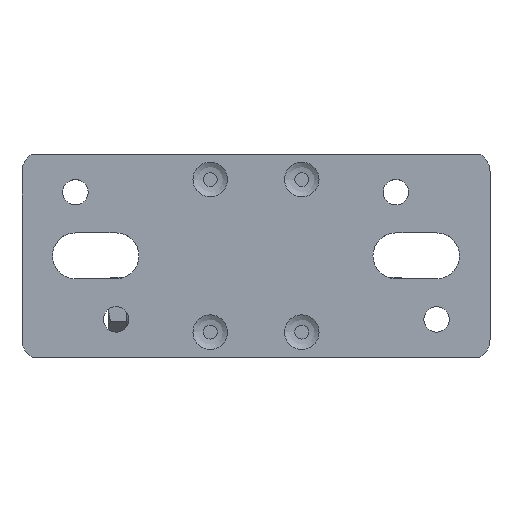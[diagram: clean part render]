
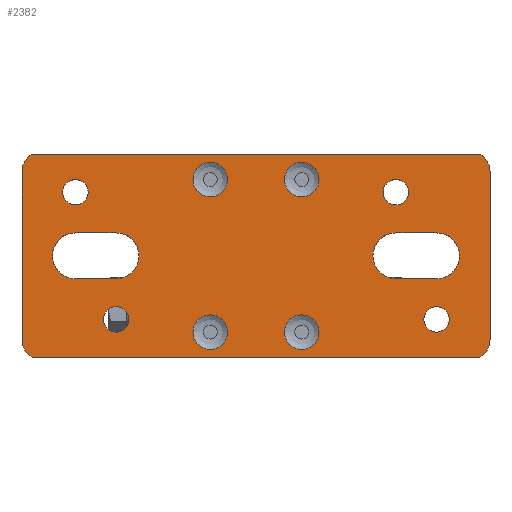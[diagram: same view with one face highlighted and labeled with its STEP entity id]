
A CAD part, top view. The second image highlights one B-rep face of the part: STEP entity #2382.
In plain terms, the highlighted planar face has unit normal (0, 0, 1).
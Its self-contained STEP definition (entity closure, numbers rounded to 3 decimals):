
#53=FACE_BOUND('',#422,.T.);
#54=FACE_BOUND('',#423,.T.);
#55=FACE_BOUND('',#424,.T.);
#56=FACE_BOUND('',#425,.T.);
#57=FACE_BOUND('',#426,.T.);
#58=FACE_BOUND('',#427,.T.);
#59=FACE_BOUND('',#428,.T.);
#60=FACE_BOUND('',#429,.T.);
#61=FACE_BOUND('',#430,.T.);
#62=FACE_BOUND('',#431,.T.);
#252=FACE_OUTER_BOUND('',#421,.T.);
#421=EDGE_LOOP('',(#1797,#1798,#1799,#1800,#1801,#1802,#1803,#1804));
#422=EDGE_LOOP('',(#1805,#1806));
#423=EDGE_LOOP('',(#1807,#1808));
#424=EDGE_LOOP('',(#1809,#1810));
#425=EDGE_LOOP('',(#1811,#1812));
#426=EDGE_LOOP('',(#1813,#1814,#1815,#1816));
#427=EDGE_LOOP('',(#1817,#1818,#1819,#1820));
#428=EDGE_LOOP('',(#1821));
#429=EDGE_LOOP('',(#1822));
#430=EDGE_LOOP('',(#1823));
#431=EDGE_LOOP('',(#1824));
#574=CIRCLE('',#2533,3.4);
#575=CIRCLE('',#2534,3.4);
#577=CIRCLE('',#2537,3.4);
#578=CIRCLE('',#2538,3.4);
#580=CIRCLE('',#2541,3.4);
#581=CIRCLE('',#2542,3.4);
#583=CIRCLE('',#2545,3.4);
#584=CIRCLE('',#2546,3.4);
#586=CIRCLE('',#2551,4.5);
#588=CIRCLE('',#2555,4.5);
#590=CIRCLE('',#2559,4.5);
#592=CIRCLE('',#2563,4.5);
#594=CIRCLE('',#2566,2.5);
#596=CIRCLE('',#2569,2.5);
#598=CIRCLE('',#2572,2.5);
#600=CIRCLE('',#2575,2.5);
#602=CIRCLE('',#2578,4.);
#604=CIRCLE('',#2582,4.);
#606=CIRCLE('',#2586,4.);
#608=CIRCLE('',#2590,4.);
#695=LINE('',#3868,#885);
#700=LINE('',#3882,#890);
#703=LINE('',#3892,#893);
#708=LINE('',#3906,#898);
#713=LINE('',#3944,#903);
#717=LINE('',#3956,#907);
#721=LINE('',#3968,#911);
#725=LINE('',#3979,#915);
#885=VECTOR('',#2911,8.);
#890=VECTOR('',#2924,8.);
#893=VECTOR('',#2935,8.);
#898=VECTOR('',#2948,8.);
#903=VECTOR('',#2991,87.873);
#907=VECTOR('',#3003,33.);
#911=VECTOR('',#3015,87.873);
#915=VECTOR('',#3027,33.);
#1083=VERTEX_POINT('',#3744);
#1084=VERTEX_POINT('',#3745);
#1086=VERTEX_POINT('',#3781);
#1087=VERTEX_POINT('',#3782);
#1089=VERTEX_POINT('',#3818);
#1090=VERTEX_POINT('',#3819);
#1092=VERTEX_POINT('',#3855);
#1093=VERTEX_POINT('',#3856);
#1095=VERTEX_POINT('',#3866);
#1096=VERTEX_POINT('',#3867);
#1099=VERTEX_POINT('',#3875);
#1101=VERTEX_POINT('',#3881);
#1103=VERTEX_POINT('',#3890);
#1104=VERTEX_POINT('',#3891);
#1107=VERTEX_POINT('',#3899);
#1109=VERTEX_POINT('',#3905);
#1111=VERTEX_POINT('',#3914);
#1113=VERTEX_POINT('',#3919);
#1115=VERTEX_POINT('',#3924);
#1117=VERTEX_POINT('',#3929);
#1119=VERTEX_POINT('',#3934);
#1120=VERTEX_POINT('',#3935);
#1123=VERTEX_POINT('',#3943);
#1125=VERTEX_POINT('',#3949);
#1127=VERTEX_POINT('',#3955);
#1129=VERTEX_POINT('',#3961);
#1131=VERTEX_POINT('',#3967);
#1133=VERTEX_POINT('',#3973);
#1306=EDGE_CURVE('',#1083,#1084,#574,.T.);
#1307=EDGE_CURVE('',#1084,#1083,#575,.T.);
#1310=EDGE_CURVE('',#1086,#1087,#577,.T.);
#1311=EDGE_CURVE('',#1087,#1086,#578,.T.);
#1314=EDGE_CURVE('',#1089,#1090,#580,.T.);
#1315=EDGE_CURVE('',#1090,#1089,#581,.T.);
#1318=EDGE_CURVE('',#1092,#1093,#583,.T.);
#1319=EDGE_CURVE('',#1093,#1092,#584,.T.);
#1322=EDGE_CURVE('',#1095,#1096,#695,.T.);
#1326=EDGE_CURVE('',#1096,#1099,#586,.T.);
#1329=EDGE_CURVE('',#1099,#1101,#700,.T.);
#1332=EDGE_CURVE('',#1101,#1095,#588,.T.);
#1334=EDGE_CURVE('',#1103,#1104,#703,.T.);
#1338=EDGE_CURVE('',#1104,#1107,#590,.T.);
#1341=EDGE_CURVE('',#1107,#1109,#708,.T.);
#1344=EDGE_CURVE('',#1109,#1103,#592,.T.);
#1346=EDGE_CURVE('',#1111,#1111,#594,.T.);
#1348=EDGE_CURVE('',#1113,#1113,#596,.T.);
#1350=EDGE_CURVE('',#1115,#1115,#598,.T.);
#1352=EDGE_CURVE('',#1117,#1117,#600,.T.);
#1354=EDGE_CURVE('',#1119,#1120,#602,.T.);
#1358=EDGE_CURVE('',#1120,#1123,#713,.T.);
#1361=EDGE_CURVE('',#1123,#1125,#604,.T.);
#1364=EDGE_CURVE('',#1125,#1127,#717,.T.);
#1367=EDGE_CURVE('',#1127,#1129,#606,.T.);
#1370=EDGE_CURVE('',#1129,#1131,#721,.T.);
#1373=EDGE_CURVE('',#1131,#1133,#608,.T.);
#1376=EDGE_CURVE('',#1133,#1119,#725,.T.);
#1797=ORIENTED_EDGE('',*,*,#1354,.F.);
#1798=ORIENTED_EDGE('',*,*,#1376,.F.);
#1799=ORIENTED_EDGE('',*,*,#1373,.F.);
#1800=ORIENTED_EDGE('',*,*,#1370,.F.);
#1801=ORIENTED_EDGE('',*,*,#1367,.F.);
#1802=ORIENTED_EDGE('',*,*,#1364,.F.);
#1803=ORIENTED_EDGE('',*,*,#1361,.F.);
#1804=ORIENTED_EDGE('',*,*,#1358,.F.);
#1805=ORIENTED_EDGE('',*,*,#1318,.T.);
#1806=ORIENTED_EDGE('',*,*,#1319,.T.);
#1807=ORIENTED_EDGE('',*,*,#1306,.T.);
#1808=ORIENTED_EDGE('',*,*,#1307,.T.);
#1809=ORIENTED_EDGE('',*,*,#1314,.T.);
#1810=ORIENTED_EDGE('',*,*,#1315,.T.);
#1811=ORIENTED_EDGE('',*,*,#1310,.T.);
#1812=ORIENTED_EDGE('',*,*,#1311,.T.);
#1813=ORIENTED_EDGE('',*,*,#1322,.T.);
#1814=ORIENTED_EDGE('',*,*,#1326,.T.);
#1815=ORIENTED_EDGE('',*,*,#1329,.T.);
#1816=ORIENTED_EDGE('',*,*,#1332,.T.);
#1817=ORIENTED_EDGE('',*,*,#1334,.T.);
#1818=ORIENTED_EDGE('',*,*,#1338,.T.);
#1819=ORIENTED_EDGE('',*,*,#1341,.T.);
#1820=ORIENTED_EDGE('',*,*,#1344,.T.);
#1821=ORIENTED_EDGE('',*,*,#1346,.T.);
#1822=ORIENTED_EDGE('',*,*,#1348,.T.);
#1823=ORIENTED_EDGE('',*,*,#1350,.T.);
#1824=ORIENTED_EDGE('',*,*,#1352,.T.);
#2260=PLANE('',#2594);
#2382=ADVANCED_FACE('',(#252,#53,#54,#55,#56,#57,#58,#59,#60,#61,#62),#2260,
 .T.);
#2533=AXIS2_PLACEMENT_3D('',#3746,#2877,#2878);
#2534=AXIS2_PLACEMENT_3D('',#3747,#2879,#2880);
#2537=AXIS2_PLACEMENT_3D('',#3783,#2885,#2886);
#2538=AXIS2_PLACEMENT_3D('',#3784,#2887,#2888);
#2541=AXIS2_PLACEMENT_3D('',#3820,#2893,#2894);
#2542=AXIS2_PLACEMENT_3D('',#3821,#2895,#2896);
#2545=AXIS2_PLACEMENT_3D('',#3857,#2901,#2902);
#2546=AXIS2_PLACEMENT_3D('',#3858,#2903,#2904);
#2551=AXIS2_PLACEMENT_3D('',#3876,#2917,#2918);
#2555=AXIS2_PLACEMENT_3D('',#3887,#2929,#2930);
#2559=AXIS2_PLACEMENT_3D('',#3900,#2941,#2942);
#2563=AXIS2_PLACEMENT_3D('',#3911,#2953,#2954);
#2566=AXIS2_PLACEMENT_3D('',#3915,#2959,#2960);
#2569=AXIS2_PLACEMENT_3D('',#3920,#2965,#2966);
#2572=AXIS2_PLACEMENT_3D('',#3925,#2971,#2972);
#2575=AXIS2_PLACEMENT_3D('',#3930,#2977,#2978);
#2578=AXIS2_PLACEMENT_3D('',#3936,#2983,#2984);
#2582=AXIS2_PLACEMENT_3D('',#3950,#2996,#2997);
#2586=AXIS2_PLACEMENT_3D('',#3962,#3008,#3009);
#2590=AXIS2_PLACEMENT_3D('',#3974,#3020,#3021);
#2594=AXIS2_PLACEMENT_3D('',#3982,#3031,#3032);
#2877=DIRECTION('center_axis',(0.,0.,-1.));
#2878=DIRECTION('ref_axis',(-1.,0.,0.));
#2879=DIRECTION('center_axis',(0.,0.,-1.));
#2880=DIRECTION('ref_axis',(-1.,0.,0.));
#2885=DIRECTION('center_axis',(0.,0.,-1.));
#2886=DIRECTION('ref_axis',(-1.,0.,0.));
#2887=DIRECTION('center_axis',(0.,0.,-1.));
#2888=DIRECTION('ref_axis',(-1.,0.,0.));
#2893=DIRECTION('center_axis',(0.,0.,-1.));
#2894=DIRECTION('ref_axis',(-1.,0.,0.));
#2895=DIRECTION('center_axis',(0.,0.,-1.));
#2896=DIRECTION('ref_axis',(-1.,0.,0.));
#2901=DIRECTION('center_axis',(0.,0.,-1.));
#2902=DIRECTION('ref_axis',(-1.,0.,0.));
#2903=DIRECTION('center_axis',(0.,0.,-1.));
#2904=DIRECTION('ref_axis',(-1.,0.,0.));
#2911=DIRECTION('',(1.,0.,0.));
#2917=DIRECTION('center_axis',(0.,0.,-1.));
#2918=DIRECTION('ref_axis',(0.,-1.,0.));
#2924=DIRECTION('',(-1.,0.,0.));
#2929=DIRECTION('center_axis',(0.,0.,-1.));
#2930=DIRECTION('ref_axis',(0.,1.,0.));
#2935=DIRECTION('',(-1.,0.,0.));
#2941=DIRECTION('center_axis',(0.,0.,-1.));
#2942=DIRECTION('ref_axis',(0.,-1.,0.));
#2948=DIRECTION('',(1.,0.,0.));
#2953=DIRECTION('center_axis',(0.,0.,-1.));
#2954=DIRECTION('ref_axis',(0.,1.,0.));
#2959=DIRECTION('center_axis',(0.,0.,-1.));
#2960=DIRECTION('ref_axis',(-1.,0.,0.));
#2965=DIRECTION('center_axis',(0.,0.,-1.));
#2966=DIRECTION('ref_axis',(-1.,0.,0.));
#2971=DIRECTION('center_axis',(0.,0.,-1.));
#2972=DIRECTION('ref_axis',(-1.,0.,0.));
#2977=DIRECTION('center_axis',(0.,0.,-1.));
#2978=DIRECTION('ref_axis',(-1.,0.,0.));
#2983=DIRECTION('center_axis',(0.,0.,-1.));
#2984=DIRECTION('ref_axis',(-0.484,0.875,0.));
#2991=DIRECTION('',(1.,0.,0.));
#2996=DIRECTION('center_axis',(0.,0.,-1.));
#2997=DIRECTION('ref_axis',(1.,0.,0.));
#3003=DIRECTION('',(0.,-1.,0.));
#3008=DIRECTION('center_axis',(0.,0.,-1.));
#3009=DIRECTION('ref_axis',(0.484,-0.875,0.));
#3015=DIRECTION('',(-1.,0.,0.));
#3020=DIRECTION('center_axis',(0.,0.,-1.));
#3021=DIRECTION('ref_axis',(-1.,0.,0.));
#3027=DIRECTION('',(0.,1.,0.));
#3031=DIRECTION('center_axis',(0.,0.,1.));
#3032=DIRECTION('ref_axis',(1.,0.,0.));
#3744=CARTESIAN_POINT('',(12.4,-15.,3.));
#3745=CARTESIAN_POINT('',(5.6,-15.,3.));
#3746=CARTESIAN_POINT('Origin',(9.,-15.,3.));
#3747=CARTESIAN_POINT('Origin',(9.,-15.,3.));
#3781=CARTESIAN_POINT('',(-5.6,-15.,3.));
#3782=CARTESIAN_POINT('',(-12.4,-15.,3.));
#3783=CARTESIAN_POINT('Origin',(-9.,-15.,3.));
#3784=CARTESIAN_POINT('Origin',(-9.,-15.,3.));
#3818=CARTESIAN_POINT('',(12.4,15.,3.));
#3819=CARTESIAN_POINT('',(5.6,15.,3.));
#3820=CARTESIAN_POINT('Origin',(9.,15.,3.));
#3821=CARTESIAN_POINT('Origin',(9.,15.,3.));
#3855=CARTESIAN_POINT('',(-5.6,15.,3.));
#3856=CARTESIAN_POINT('',(-12.4,15.,3.));
#3857=CARTESIAN_POINT('Origin',(-9.,15.,3.));
#3858=CARTESIAN_POINT('Origin',(-9.,15.,3.));
#3866=CARTESIAN_POINT('',(27.5,4.5,3.));
#3867=CARTESIAN_POINT('',(35.5,4.5,3.));
#3868=CARTESIAN_POINT('',(13.75,4.5,3.));
#3875=CARTESIAN_POINT('',(35.5,-4.5,3.));
#3876=CARTESIAN_POINT('Origin',(35.5,0.,3.));
#3881=CARTESIAN_POINT('',(27.5,-4.5,3.));
#3882=CARTESIAN_POINT('',(15.5,-4.5,3.));
#3887=CARTESIAN_POINT('Origin',(27.5,0.,3.));
#3890=CARTESIAN_POINT('',(-27.5,-4.5,3.));
#3891=CARTESIAN_POINT('',(-35.5,-4.5,3.));
#3892=CARTESIAN_POINT('',(-15.5,-4.5,3.));
#3899=CARTESIAN_POINT('',(-35.5,4.5,3.));
#3900=CARTESIAN_POINT('Origin',(-35.5,0.,3.));
#3905=CARTESIAN_POINT('',(-27.5,4.5,3.));
#3906=CARTESIAN_POINT('',(-17.75,4.5,3.));
#3911=CARTESIAN_POINT('Origin',(-27.5,0.,3.));
#3914=CARTESIAN_POINT('',(38.,-12.5,3.));
#3915=CARTESIAN_POINT('Origin',(35.5,-12.5,3.));
#3919=CARTESIAN_POINT('',(30.,12.5,3.));
#3920=CARTESIAN_POINT('Origin',(27.5,12.5,3.));
#3924=CARTESIAN_POINT('',(-25.,-12.5,3.));
#3925=CARTESIAN_POINT('Origin',(-27.5,-12.5,3.));
#3929=CARTESIAN_POINT('',(-33.,12.5,3.));
#3930=CARTESIAN_POINT('Origin',(-35.5,12.5,3.));
#3934=CARTESIAN_POINT('',(-46.,16.5,3.));
#3935=CARTESIAN_POINT('',(-43.936,20.,3.));
#3936=CARTESIAN_POINT('Origin',(-42.,16.5,3.));
#3943=CARTESIAN_POINT('',(43.936,20.,3.));
#3944=CARTESIAN_POINT('',(43.936,20.,3.));
#3949=CARTESIAN_POINT('',(46.,16.5,3.));
#3950=CARTESIAN_POINT('Origin',(42.,16.5,3.));
#3955=CARTESIAN_POINT('',(46.,-16.5,3.));
#3956=CARTESIAN_POINT('',(46.,-16.5,3.));
#3961=CARTESIAN_POINT('',(43.936,-20.,3.));
#3962=CARTESIAN_POINT('Origin',(42.,-16.5,3.));
#3967=CARTESIAN_POINT('',(-43.936,-20.,3.));
#3968=CARTESIAN_POINT('',(-43.936,-20.,3.));
#3973=CARTESIAN_POINT('',(-46.,-16.5,3.));
#3974=CARTESIAN_POINT('Origin',(-42.,-16.5,3.));
#3979=CARTESIAN_POINT('',(-46.,16.5,3.));
#3982=CARTESIAN_POINT('Origin',(0.,0.,
3.));
